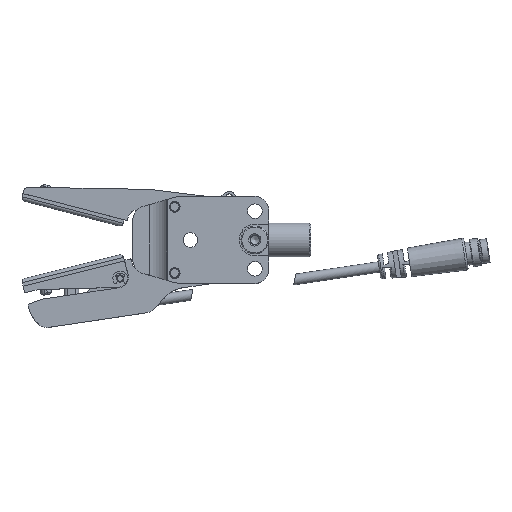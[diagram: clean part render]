
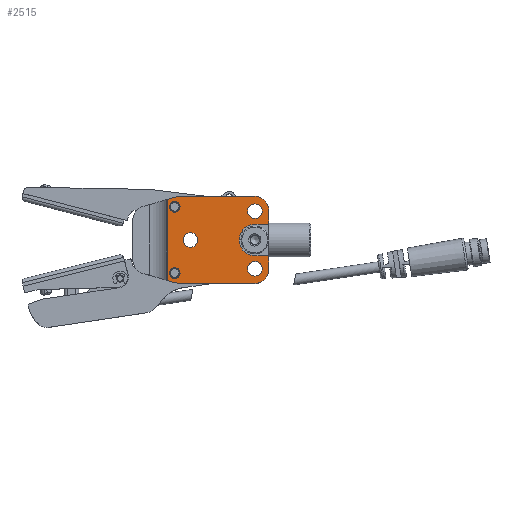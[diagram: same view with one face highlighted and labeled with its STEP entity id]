
A CAD part, top view. The second image highlights one B-rep face of the part: STEP entity #2515.
In plain terms, the highlighted planar face has unit normal (0, 0, 1).
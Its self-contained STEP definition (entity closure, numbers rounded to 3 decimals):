
#2515=ADVANCED_FACE('',(#4175,#4176,#4177,#4178,#4179,#4180),#4181,.T.);
#4175=FACE_BOUND('',#7446,.T.);
#4176=FACE_BOUND('',#7447,.T.);
#4177=FACE_BOUND('',#7448,.T.);
#4178=FACE_BOUND('',#7449,.T.);
#4179=FACE_BOUND('',#7450,.T.);
#4180=FACE_OUTER_BOUND('',#7451,.T.);
#4181=PLANE('',#7452);
#7446=EDGE_LOOP('',(#12125));
#7447=EDGE_LOOP('',(#12126));
#7448=EDGE_LOOP('',(#12127));
#7449=EDGE_LOOP('',(#12128));
#7450=EDGE_LOOP('',(#12129));
#7451=EDGE_LOOP('',(#12130,#12131,#12132,#12133,#12134,#12135,#12136,#12137,#12138,#12139,#12140,#12141));
#7452=AXIS2_PLACEMENT_3D('',#12142,#12143,#12144);
#12125=ORIENTED_EDGE('',*,*,#14024,.F.);
#12126=ORIENTED_EDGE('',*,*,#14021,.F.);
#12127=ORIENTED_EDGE('',*,*,#14018,.F.);
#12128=ORIENTED_EDGE('',*,*,#14009,.F.);
#12129=ORIENTED_EDGE('',*,*,#14125,.F.);
#12130=ORIENTED_EDGE('',*,*,#14126,.F.);
#12131=ORIENTED_EDGE('',*,*,#14127,.T.);
#12132=ORIENTED_EDGE('',*,*,#14128,.F.);
#12133=ORIENTED_EDGE('',*,*,#14114,.T.);
#12134=ORIENTED_EDGE('',*,*,#14098,.T.);
#12135=ORIENTED_EDGE('',*,*,#14129,.F.);
#12136=ORIENTED_EDGE('',*,*,#14130,.F.);
#12137=ORIENTED_EDGE('',*,*,#14074,.F.);
#12138=ORIENTED_EDGE('',*,*,#14131,.F.);
#12139=ORIENTED_EDGE('',*,*,#14132,.F.);
#12140=ORIENTED_EDGE('',*,*,#14095,.T.);
#12141=ORIENTED_EDGE('',*,*,#14106,.T.);
#12142=CARTESIAN_POINT('',(0.0,0.0,7.5));
#12143=DIRECTION('',(0.0,0.0,1.0));
#12144=DIRECTION('',(1.0,0.0,0.0));
#14009=EDGE_CURVE('',#16067,#16067,#16068,.T.);
#14018=EDGE_CURVE('',#16082,#16082,#16083,.T.);
#14021=EDGE_CURVE('',#16087,#16087,#16088,.T.);
#14024=EDGE_CURVE('',#16092,#16092,#16093,.T.);
#14074=EDGE_CURVE('',#16177,#16178,#16179,.T.);
#14095=EDGE_CURVE('',#16213,#16211,#16214,.T.);
#14098=EDGE_CURVE('',#16217,#16218,#16219,.T.);
#14106=EDGE_CURVE('',#16211,#16231,#16232,.T.);
#14114=EDGE_CURVE('',#16244,#16217,#16245,.T.);
#14125=EDGE_CURVE('',#16260,#16260,#16261,.T.);
#14126=EDGE_CURVE('',#16262,#16231,#16263,.T.);
#14127=EDGE_CURVE('',#16262,#16264,#16265,.F.);
#14128=EDGE_CURVE('',#16244,#16264,#16266,.T.);
#14129=EDGE_CURVE('',#16267,#16218,#16268,.T.);
#14130=EDGE_CURVE('',#16178,#16267,#16269,.T.);
#14131=EDGE_CURVE('',#16270,#16177,#16271,.T.);
#14132=EDGE_CURVE('',#16213,#16270,#16272,.T.);
#16067=VERTEX_POINT('',#19512);
#16068=CIRCLE('',#19513,1.525);
#16082=VERTEX_POINT('',#19527);
#16083=CIRCLE('',#19528,2.1);
#16087=VERTEX_POINT('',#19532);
#16088=CIRCLE('',#19533,2.1);
#16092=VERTEX_POINT('',#19537);
#16093=CIRCLE('',#19538,2.1);
#16177=VERTEX_POINT('',#19710);
#16178=VERTEX_POINT('',#19711);
#16179=CIRCLE('',#19712,4.5);
#16211=VERTEX_POINT('',#19753);
#16213=VERTEX_POINT('',#19756);
#16214=CIRCLE('',#19757,4.0);
#16217=VERTEX_POINT('',#19761);
#16218=VERTEX_POINT('',#19762);
#16219=CIRCLE('',#19763,4.0);
#16231=VERTEX_POINT('',#19777);
#16232=LINE('',#19778,#19779);
#16244=VERTEX_POINT('',#19797);
#16245=LINE('',#19798,#19799);
#16260=VERTEX_POINT('',#19822);
#16261=CIRCLE('',#19823,1.525);
#16262=VERTEX_POINT('',#19824);
#16263=LINE('',#19825,#19826);
#16264=VERTEX_POINT('',#19827);
#16265=LINE('',#19828,#19829);
#16266=LINE('',#19830,#19831);
#16267=VERTEX_POINT('',#19832);
#16268=LINE('',#19833,#19834);
#16269=LINE('',#19835,#19836);
#16270=VERTEX_POINT('',#19837);
#16271=LINE('',#19838,#19839);
#16272=LINE('',#19840,#19841);
#19512=CARTESIAN_POINT('',(-11.475,-9.5,7.5));
#19513=AXIS2_PLACEMENT_3D('',#21785,#21786,#21787);
#19527=CARTESIAN_POINT('',(-6.4,0.,7.5));
#19528=AXIS2_PLACEMENT_3D('',#21803,#21804,#21805);
#19532=CARTESIAN_POINT('',(12.1,-8.25,7.5));
#19533=AXIS2_PLACEMENT_3D('',#21809,#21810,#21811);
#19537=CARTESIAN_POINT('',(12.1,8.25,7.5));
#19538=AXIS2_PLACEMENT_3D('',#21815,#21816,#21817);
#19710=CARTESIAN_POINT('',(10.0,4.5,7.5));
#19711=CARTESIAN_POINT('',(10.0,-4.5,7.5));
#19712=AXIS2_PLACEMENT_3D('',#21888,#21889,#21890);
#19753=CARTESIAN_POINT('',(10.0,12.5,7.5));
#19756=CARTESIAN_POINT('',(14.0,8.5,7.5));
#19757=AXIS2_PLACEMENT_3D('',#21916,#21917,#21918);
#19761=CARTESIAN_POINT('',(10.0,-12.5,7.5));
#19762=CARTESIAN_POINT('',(14.0,-8.5,7.5));
#19763=AXIS2_PLACEMENT_3D('',#21920,#21921,#21922);
#19777=CARTESIAN_POINT('',(-12.0,12.5,7.5));
#19778=CARTESIAN_POINT('',(-26.0,12.5,7.5));
#19779=VECTOR('',#21934,1.0);
#19797=CARTESIAN_POINT('',(-12.0,-12.5,7.5));
#19798=CARTESIAN_POINT('',(-26.0,-12.5,7.5));
#19799=VECTOR('',#21941,1.0);
#19822=CARTESIAN_POINT('',(-11.475,9.5,7.5));
#19823=AXIS2_PLACEMENT_3D('',#21950,#21951,#21952);
#19824=CARTESIAN_POINT('',(-14.997,11.641,7.5));
#19825=CARTESIAN_POINT('',(-26.0,8.486,7.5));
#19826=VECTOR('',#21953,1.0);
#19827=CARTESIAN_POINT('',(-14.997,-11.641,7.5));
#19828=CARTESIAN_POINT('',(-14.997,-11.57,7.5));
#19829=VECTOR('',#21954,1.0);
#19830=CARTESIAN_POINT('',(-26.0,-8.486,7.5));
#19831=VECTOR('',#21955,1.0);
#19832=CARTESIAN_POINT('',(14.0,-4.5,7.5));
#19833=CARTESIAN_POINT('',(14.0,12.5,7.5));
#19834=VECTOR('',#21956,1.0);
#19835=CARTESIAN_POINT('',(10.0,-4.5,7.5));
#19836=VECTOR('',#21957,1.0);
#19837=CARTESIAN_POINT('',(14.0,4.5,7.5));
#19838=CARTESIAN_POINT('',(10.0,4.5,7.5));
#19839=VECTOR('',#21958,1.0);
#19840=CARTESIAN_POINT('',(14.0,12.5,7.5));
#19841=VECTOR('',#21959,1.0);
#21785=CARTESIAN_POINT('',(-13.0,-9.5,7.5));
#21786=DIRECTION('',(0.0,0.0,1.0));
#21787=DIRECTION('',(1.0,0.0,0.0));
#21803=CARTESIAN_POINT('',(-8.5,0.,7.5));
#21804=DIRECTION('',(0.0,0.0,1.0));
#21805=DIRECTION('',(1.0,0.0,0.0));
#21809=CARTESIAN_POINT('',(10.0,-8.25,7.5));
#21810=DIRECTION('',(0.0,0.0,1.0));
#21811=DIRECTION('',(1.0,0.0,0.0));
#21815=CARTESIAN_POINT('',(10.0,8.25,7.5));
#21816=DIRECTION('',(0.0,0.0,1.0));
#21817=DIRECTION('',(1.0,0.0,0.0));
#21888=CARTESIAN_POINT('',(10.0,0.0,7.5));
#21889=DIRECTION('',(0.0,0.0,1.0));
#21890=DIRECTION('',(1.0,0.0,0.0));
#21916=CARTESIAN_POINT('',(10.0,8.5,7.5));
#21917=DIRECTION('',(0.0,0.0,1.0));
#21918=DIRECTION('',(1.0,0.0,0.0));
#21920=CARTESIAN_POINT('',(10.0,-8.5,7.5));
#21921=DIRECTION('',(0.0,0.0,1.0));
#21922=DIRECTION('',(1.0,0.0,0.0));
#21934=DIRECTION('',(-1.0,0.0,0.0));
#21941=DIRECTION('',(1.0,0.0,0.0));
#21950=CARTESIAN_POINT('',(-13.0,9.5,7.5));
#21951=DIRECTION('',(0.0,0.0,1.0));
#21952=DIRECTION('',(1.0,0.0,0.0));
#21953=DIRECTION('',(0.961,0.276,0.0));
#21954=DIRECTION('',(0.0,1.0,0.0));
#21955=DIRECTION('',(-0.961,0.276,0.0));
#21956=DIRECTION('',(0.,-1.0,0.));
#21957=DIRECTION('',(1.0,0.0,0.0));
#21958=DIRECTION('',(-1.0,0.0,0.0));
#21959=DIRECTION('',(0.,-1.0,0.));
